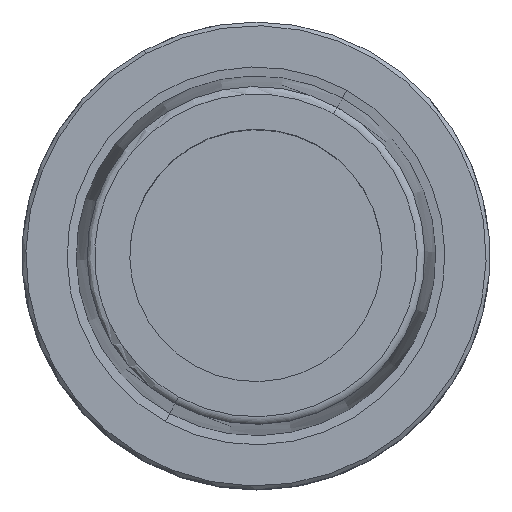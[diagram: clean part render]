
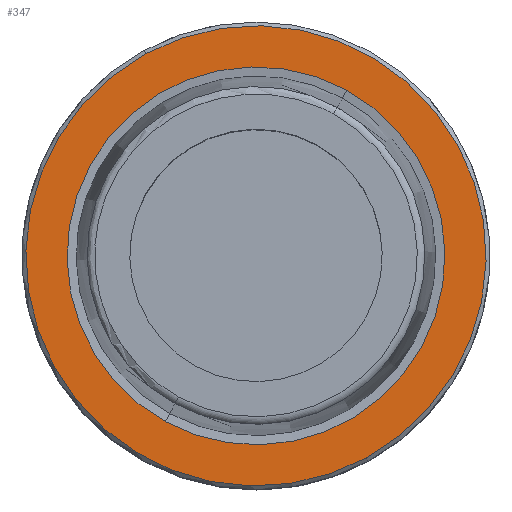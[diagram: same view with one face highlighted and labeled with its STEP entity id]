
A CAD part, top view. The second image highlights one B-rep face of the part: STEP entity #347.
In plain terms, the highlighted planar face has unit normal (0, 0, 1).
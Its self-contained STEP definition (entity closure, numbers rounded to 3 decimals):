
#284=AXIS2_PLACEMENT_3D('Circle Axis2P3D',#282,#283,$) ;
#310=AXIS2_PLACEMENT_3D('Circle Axis2P3D',#308,#309,$) ;
#323=AXIS2_PLACEMENT_3D('Plane Axis2P3D',#320,#321,#322) ;
#327=AXIS2_PLACEMENT_3D('Circle Axis2P3D',#325,#326,$) ;
#336=AXIS2_PLACEMENT_3D('Circle Axis2P3D',#334,#335,$) ;
#282=CARTESIAN_POINT('Axis2P3D Location',(0.,0.,0.)) ;
#286=CARTESIAN_POINT('Vertex',(-12.201,-22.334,0.)) ;
#288=CARTESIAN_POINT('Vertex',(12.201,22.334,0.)) ;
#308=CARTESIAN_POINT('Axis2P3D Location',(0.,0.,0.)) ;
#320=CARTESIAN_POINT('Axis2P3D Location',(0.,-24.321,0.)) ;
#325=CARTESIAN_POINT('Axis2P3D Location',(0.,0.,0.)) ;
#329=CARTESIAN_POINT('Vertex',(14.862,-27.205,0.)) ;
#331=CARTESIAN_POINT('Vertex',(-14.862,27.205,0.)) ;
#334=CARTESIAN_POINT('Axis2P3D Location',(0.,0.,0.)) ;
#283=DIRECTION('Axis2P3D Direction',(0.,0.,1.)) ;
#309=DIRECTION('Axis2P3D Direction',(0.,0.,1.)) ;
#321=DIRECTION('Axis2P3D Direction',(0.,0.,-1.)) ;
#322=DIRECTION('Axis2P3D XDirection',(-1.,0.,0.)) ;
#326=DIRECTION('Axis2P3D Direction',(0.,0.,-1.)) ;
#335=DIRECTION('Axis2P3D Direction',(0.,0.,-1.)) ;
#340=ORIENTED_EDGE('',*,*,#333,.F.) ;
#341=ORIENTED_EDGE('',*,*,#338,.F.) ;
#344=ORIENTED_EDGE('',*,*,#312,.T.) ;
#345=ORIENTED_EDGE('',*,*,#290,.T.) ;
#346=FACE_BOUND('',#343,.T.) ;
#347=ADVANCED_FACE('NOCUT',(#342,#346),#324,.F.) ;
#285=CIRCLE('generated circle',#284,25.45) ;
#311=CIRCLE('generated circle',#310,25.45) ;
#328=CIRCLE('generated circle',#327,31.) ;
#337=CIRCLE('generated circle',#336,31.) ;
#290=EDGE_CURVE('',#287,#289,#285,.F.) ;
#312=EDGE_CURVE('',#289,#287,#311,.F.) ;
#333=EDGE_CURVE('',#330,#332,#328,.T.) ;
#338=EDGE_CURVE('',#332,#330,#337,.T.) ;
#339=EDGE_LOOP('',(#340,#341)) ;
#343=EDGE_LOOP('',(#344,#345)) ;
#342=FACE_OUTER_BOUND('',#339,.T.) ;
#324=PLANE('',#323) ;
#287=VERTEX_POINT('',#286) ;
#289=VERTEX_POINT('',#288) ;
#330=VERTEX_POINT('',#329) ;
#332=VERTEX_POINT('',#331) ;
